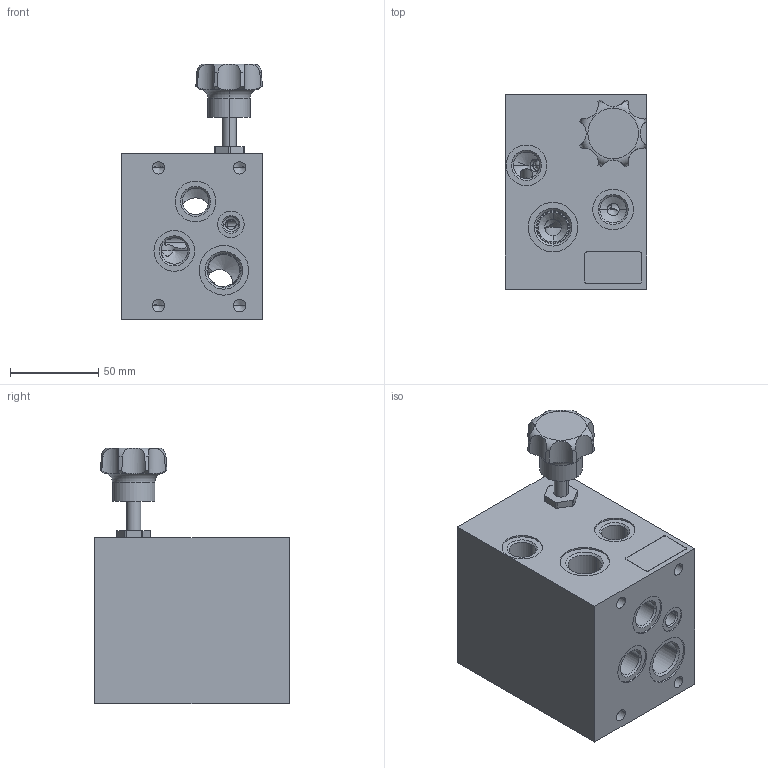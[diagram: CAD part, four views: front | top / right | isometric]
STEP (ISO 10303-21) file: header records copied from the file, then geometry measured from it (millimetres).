
FILE_DESCRIPTION((''),'2;1');
FILE_NAME('ZB06','2018-05-15T',('l.soukupova'),(''),'PRO/ENGINEER BY PARAMETRIC TECHNOLOGY CORPORATION, 2015440','PRO/ENGINEER BY PARAMETRIC TECHNOLOGY CORPORATION, 2015440','');
FILE_SCHEMA(('AUTOMOTIVE_DESIGN { 1 0 10303 214 1 1 1 1 }'));
Length unit declared in the file: millimetre
Products named in the file (1): ZB06
Bounding box: 80 x 110 x 144.65 mm (x, y, z)
Volume: 712524.7 mm3; surface area: 94752.1 mm2
Topology: 1 solids, 1 shells, 390 faces, 994 edges, 595 vertices
Faces by surface type: cylinder 173, cone 153, plane 48, sphere 12, torus 4
Entity records: 22447 total; most frequent: CARTESIAN_POINT 6137, DIRECTION 1931, ORIENTED_EDGE 1882, PRESENTATION_STYLE_ASSIGNMENT 1318, STYLED_ITEM 946, CURVE_STYLE 945, EDGE_CURVE 941, AXIS2_PLACEMENT_3D 805
